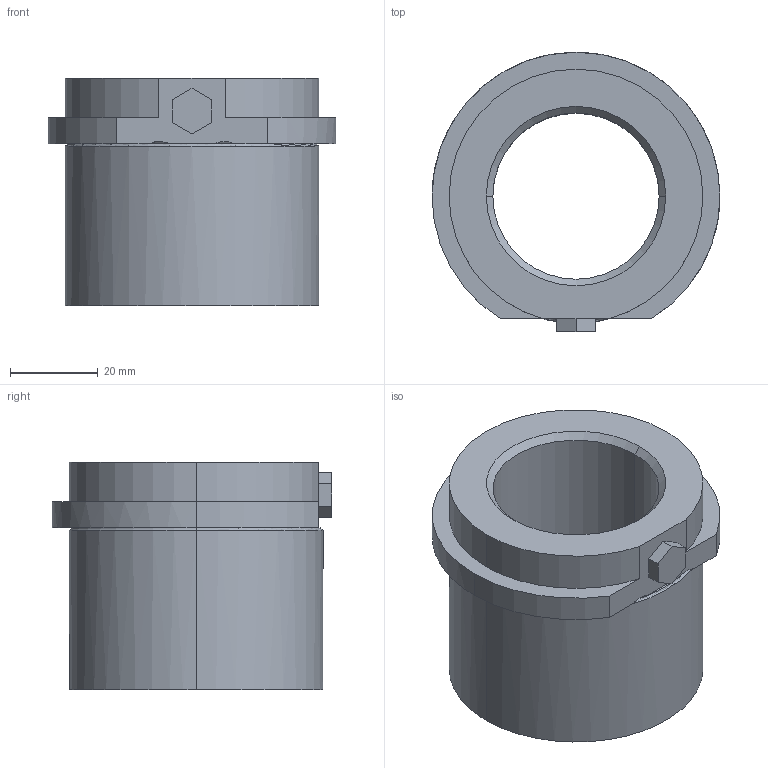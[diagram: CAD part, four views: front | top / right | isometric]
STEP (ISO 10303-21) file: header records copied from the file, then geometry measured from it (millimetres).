
FILE_DESCRIPTION(('CATIA V5 STEP Exchange'),'2;1');
FILE_NAME('C:\Users\Utente\Desktop\IO LAVORO\3D X SITO CF\X SITO\740\740-38.stp','2021-01-18T19:34:52+00:00',('none'),('none'),'CATIA Version 5 Release 20 GA (IN-10)','CATIA V5 STEP AP203','none');
FILE_SCHEMA(('CONFIG_CONTROL_DESIGN'));
Length unit declared in the file: millimetre
Products named in the file (1): 740-38
Assembly tree (1 placements, depth 2):
  740-38
    #58
Bounding box: 65.8 x 63.9 x 52 mm (x, y, z)
Volume: 81687.4 mm3; surface area: 20419 mm2
Topology: 1 solids, 1 shells, 35 faces, 88 edges, 57 vertices
Faces by surface type: plane 14, cylinder 12, torus 5, cone 4
Entity records: 1325 total; most frequent: CARTESIAN_POINT 463, ORIENTED_EDGE 176, DIRECTION 139, EDGE_CURVE 88, AXIS2_PLACEMENT_3D 63, VERTEX_POINT 57, VECTOR 42, LINE 42
